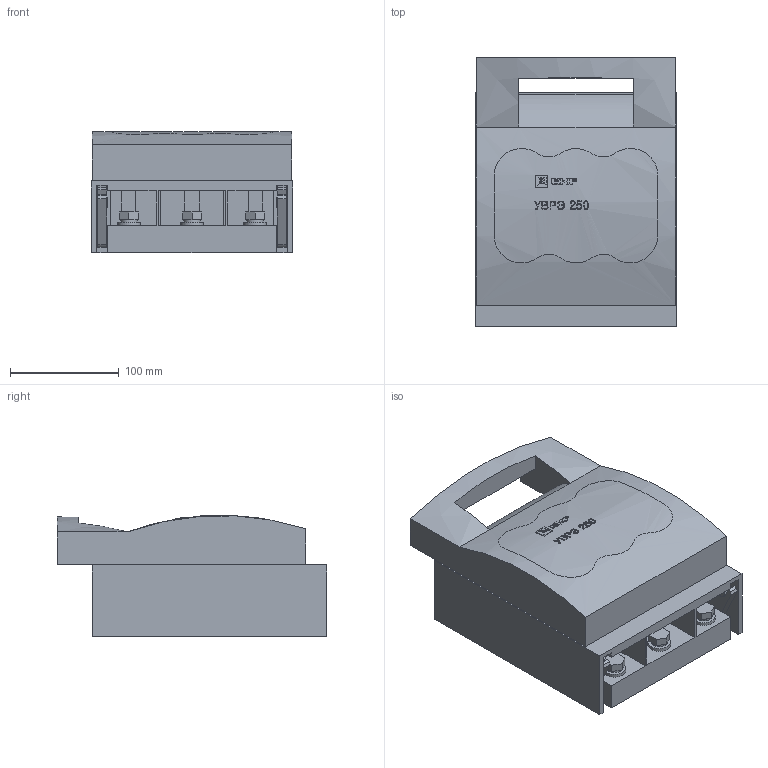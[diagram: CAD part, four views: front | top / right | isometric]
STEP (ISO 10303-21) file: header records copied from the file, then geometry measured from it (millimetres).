
FILE_DESCRIPTION (( 'STEP AP214' ), '1' );
FILE_NAME ('ÓÂÐÝ 250À îòêèäíîãî òèïà ïîä ïðåäîõðàíèòåëè ÏÏÍ (uvre-250).STEP', '2020-08-21T07:04:00', ( '' ), ( '' ), 'SwSTEP 2.0', 'SolidWorks 2019', '' );
FILE_SCHEMA (( 'AUTOMOTIVE_DESIGN' ));
Length unit declared in the file: millimetre
Products named in the file (3): Êîðïóñ 250À; Êðûøêà 250À; ÓÂÐÝ 250À îòêèäíîãî òèïà ïîä ïðåäîõðàíèòåëè ÏÏÍ (uvre-250)
Assembly tree (2 placements, depth 2):
  ÓÂÐÝ 250À îòêèäíîãî òèïà ïîä ïðåäîõðàíèòåëè ÏÏÍ (uvre-250)
    Êîðïóñ 250À
    Êðûøêà 250À
Bounding box: 185 x 247.21 x 111.65 mm (x, y, z)
Volume: 1743267 mm3; surface area: 512335.9 mm2
Topology: 2 solids, 2 shells, 671 faces, 1915 edges, 1280 vertices
Faces by surface type: plane 346, bspline 266, cylinder 59
Entity records: 50625 total; most frequent: CARTESIAN_POINT 35074, ORIENTED_EDGE 3830, DIRECTION 2006, EDGE_CURVE 1915, VERTEX_POINT 1280, VECTOR 930, LINE 930, B_SPLINE_CURVE_WITH_KNOTS 857
